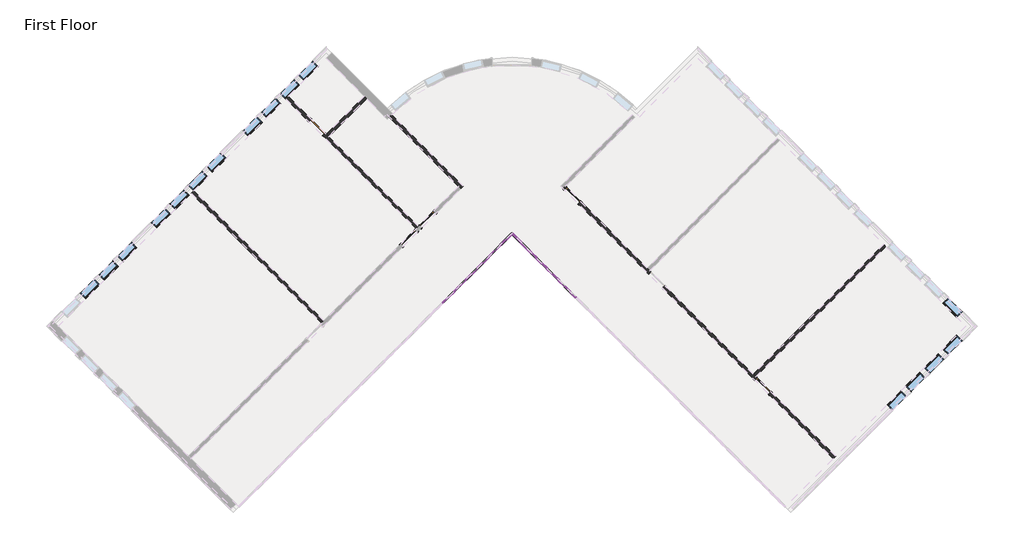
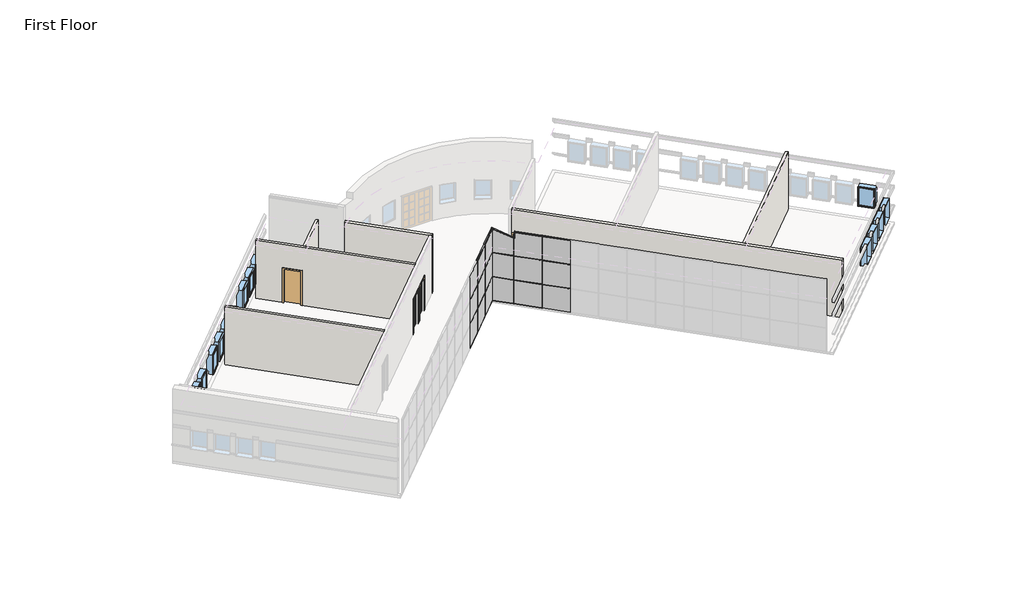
# One storey, part 3 of 7: 40 members, 18 plates, 16 windows, 6 walls, 5 doors.
"""IFC4 building model written with IfcOpenShell, lengths in millimetres."""

from ifc_helpers import new_model, si_unit, frame, origin, origin_with_axes, place, context, project, spatial, polyline, circle_curve, outline, extrude, faceted_brep, transform, mapped, element, save
from ifc_brep_helpers import plane_surface, cylinder_surface, advanced_brep
from components import door_f9494b7c, door_b81abb0e, door_5f5b55da, member_4c538f64, member_155beb68, member_9952366a, member_42be4715, member_2a473b70, member_6121af53, member_501cf4ca, member_3d68c01a, member_c3f37f0b, member_b87a50da, member_e1440e88, member_6675e4ca, member_521366c7, member_0bac5ac1, member_dc9ac586, member_4ed907bf, system_panel_glazed_ca335f2d, system_panel_glazed_da345f4e, system_panel_glazed_1c4746fc, system_panel_glazed_f1e4c5b0, system_panel_glazed_6b3f3dd8, system_panel_glazed_4e4f70a1, system_panel_solid_93f43095, system_panel_solid_cb9a7247, system_panel_solid_2f1037e2, system_panel_solid_79337ef0, system_panel_solid_a0329afc, window_15c49d37, window_0e2fc6ce

model = new_model("IFC4")

# Units and contexts
model_context = context("Model", 3, world=origin())
ifc_project = project(units=[si_unit("LENGTHUNIT", "METRE", prefix="MILLI")], contexts=[model_context])

# Site, building, storey
site = spatial("IfcSite", under=ifc_project)
building = spatial("IfcBuilding", under=site)
storey = spatial("IfcBuildingStorey", under=building, Name="First Floor", Elevation=0.0)

# Doors
placement = place(None, origin())
door_shape = door_f9494b7c(model_context)
element("IfcDoor", 1, ObjectType="Single-Flush : 36\" x 84\"", at=placement, inside=storey, context=model_context, shape_type="MappedRepresentation", body=[
    mapped(door_shape, transform((-11920.1265343, 7875.9588464, 0.0), x_axis=(0.7071067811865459, -0.7071067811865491, 0.0), y_axis=(0.7071067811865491, 0.7071067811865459, 0.0), z_axis=(0.0, 0.0, 1.0))),
])
door_2_shape = door_b81abb0e(model_context)
element("IfcDoor", 2, ObjectType="Single-Glass 1 : 36\" x 84\"", at=placement, inside=storey, context=model_context, shape_type="MappedRepresentation", body=[
    mapped(door_2_shape, transform((-7643.2795567, 2737.0072811, 0.0), x_axis=(0.7071067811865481, 0.7071067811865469, 0.0), y_axis=(-0.7071067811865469, 0.7071067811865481, 0.0), z_axis=(0.0, 0.0, 1.0))),
])
door_3_shape = door_5f5b55da(model_context)
element("IfcDoor", 3, ObjectType="Single-Glass 1 : 36\" x 84\"", at=placement, inside=storey, context=model_context, shape_type="MappedRepresentation", body=[
    mapped(door_3_shape, transform((-6781.1749691, 3599.1118687, 0.0), x_axis=(-0.7071067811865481, -0.7071067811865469, 0.0), y_axis=(0.7071067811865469, -0.7071067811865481, 0.0), z_axis=(0.0, 0.0, 1.0))),
])
element("IfcDoor", 4, ObjectType="Single-Glass 1 : 36\" x 84\"", at=placement, inside=storey, context=model_context, shape_type="MappedRepresentation", body=[
    mapped(door_3_shape, transform((-66.4240191, 4710.6541283, 0.0), x_axis=(-0.7071067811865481, 0.7071067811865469, 0.0), y_axis=(-0.7071067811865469, -0.7071067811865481, 0.0), z_axis=(0.0, 0.0, 1.0))),
])
element("IfcDoor", 5, ObjectType="Single-Glass 1 : 36\" x 84\"", at=placement, inside=storey, context=model_context, shape_type="MappedRepresentation", body=[
    mapped(door_3_shape, transform((8770.3835686, -4126.1534594, 0.0), x_axis=(-0.7071067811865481, 0.7071067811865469, 0.0), y_axis=(-0.7071067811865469, -0.7071067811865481, 0.0), z_axis=(0.0, 0.0, 1.0))),
])

# Members
member_shape = member_4c538f64(model_context)
element("IfcMember", 6, ObjectType="Rectangular Mullion : 1.5\" x 2.5\" Rectangular", at=placement, inside=storey, context=model_context, shape_type="MappedRepresentation", body=[
    mapped(member_shape, transform((-2894.9691327, 2925.5926597, 0.0), x_axis=(0.0, 0.0, -1.0), y_axis=(-0.7071067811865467, 0.7071067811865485, 0.0), z_axis=(0.7071067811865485, 0.7071067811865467, 0.0))),
])
member_2_shape = member_155beb68(model_context)
element("IfcMember", 7, ObjectType="Rectangular Mullion : 1.5\" x 2.5\" Rectangular", at=placement, inside=storey, context=model_context, shape_type="MappedRepresentation", body=[
    mapped(member_2_shape, transform((-3945.659099, 1874.9026933, 0.0), x_axis=(-0.7071067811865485, -0.7071067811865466, 0.0), y_axis=(-0.7071067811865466, 0.7071067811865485, 0.0), z_axis=(0.0, 0.0, -1.0))),
])
element("IfcMember", 8, ObjectType="Rectangular Mullion : 1.5\" x 2.5\" Rectangular", at=placement, inside=storey, context=model_context, shape_type="MappedRepresentation", body=[
    mapped(member_2_shape, transform((-5023.2898336, 797.2719587, 0.0), x_axis=(-0.7071067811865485, -0.7071067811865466, 0.0), y_axis=(-0.7071067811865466, 0.7071067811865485, 0.0), z_axis=(0.0, 0.0, -1.0))),
])
element("IfcMember", 9, ObjectType="Rectangular Mullion : 1.5\" x 2.5\" Rectangular", at=placement, inside=storey, context=model_context, shape_type="MappedRepresentation", body=[
    mapped(member_2_shape, transform((-961.9690028, 1046.4740665, 0.0), x_axis=(-0.7071067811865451, 0.70710678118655, 0.0), y_axis=(0.70710678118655, 0.7071067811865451, 0.0), z_axis=(0.0, 0.0, -1.0))),
])
element("IfcMember", 10, ObjectType="Rectangular Mullion : 1.5\" x 2.5\" Rectangular", at=placement, inside=storey, context=model_context, shape_type="MappedRepresentation", body=[
    mapped(member_2_shape, transform((-2039.5997374, 2124.1048011, 0.0), x_axis=(-0.7071067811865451, 0.70710678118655, 0.0), y_axis=(0.70710678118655, 0.7071067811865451, 0.0), z_axis=(0.0, 0.0, -1.0))),
])
member_3_shape = member_9952366a(model_context)
element("IfcMember", 11, ObjectType="Rectangular Mullion : 1.5\" x 2.5\" Rectangular", at=placement, inside=storey, context=model_context, shape_type="MappedRepresentation", body=[
    mapped(member_3_shape, transform((-3932.1887149, 1888.3730775, 1524.0), x_axis=(0.0, 0.0, 1.0), y_axis=(-0.7071067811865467, 0.7071067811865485, 0.0), z_axis=(-0.7071067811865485, -0.7071067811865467, 0.0))),
])
element("IfcMember", 12, ObjectType="Rectangular Mullion : 1.5\" x 2.5\" Rectangular", at=placement, inside=storey, context=model_context, shape_type="MappedRepresentation", body=[
    mapped(member_3_shape, transform((-3932.1887149, 1888.3730775, 3048.0), x_axis=(0.0, 0.0, 1.0), y_axis=(-0.7071067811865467, 0.7071067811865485, 0.0), z_axis=(-0.7071067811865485, -0.7071067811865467, 0.0))),
])
member_4_shape = member_42be4715(model_context)
element("IfcMember", 13, ObjectType="Rectangular Mullion : 1.5\" x 2.5\" Rectangular", at=placement, inside=storey, context=model_context, shape_type="MappedRepresentation", body=[
    mapped(member_4_shape, transform((-5009.8194494, 810.7423429, 1524.0), x_axis=(0.0, 0.0, 1.0), y_axis=(-0.7071067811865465, 0.7071067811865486, 0.0), z_axis=(-0.7071067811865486, -0.7071067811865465, 0.0))),
])
element("IfcMember", 14, ObjectType="Rectangular Mullion : 1.5\" x 2.5\" Rectangular", at=placement, inside=storey, context=model_context, shape_type="MappedRepresentation", body=[
    mapped(member_4_shape, transform((-5009.8194494, 810.7423429, 3048.0), x_axis=(0.0, 0.0, 1.0), y_axis=(-0.7071067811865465, 0.7071067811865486, 0.0), z_axis=(-0.7071067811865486, -0.7071067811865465, 0.0))),
])
element("IfcMember", 15, ObjectType="Rectangular Mullion : 1.5\" x 2.5\" Rectangular", at=placement, inside=storey, context=model_context, shape_type="MappedRepresentation", body=[
    mapped(member_4_shape, transform((-948.4986186, 1033.0036824, 1524.0), x_axis=(0.0, 0.0, 1.0), y_axis=(0.7071067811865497, 0.7071067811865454, 0.0), z_axis=(-0.7071067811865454, 0.7071067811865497, 0.0))),
])
element("IfcMember", 16, ObjectType="Rectangular Mullion : 1.5\" x 2.5\" Rectangular", at=placement, inside=storey, context=model_context, shape_type="MappedRepresentation", body=[
    mapped(member_4_shape, transform((-2026.1293532, 2110.6344169, 1524.0), x_axis=(0.0, 0.0, 1.0), y_axis=(0.7071067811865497, 0.7071067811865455, 0.0), z_axis=(-0.7071067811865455, 0.7071067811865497, 0.0))),
])
element("IfcMember", 17, ObjectType="Rectangular Mullion : 1.5\" x 2.5\" Rectangular", at=placement, inside=storey, context=model_context, shape_type="MappedRepresentation", body=[
    mapped(member_4_shape, transform((-948.4986186, 1033.0036824, 3048.0), x_axis=(0.0, 0.0, 1.0), y_axis=(0.7071067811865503, 0.7071067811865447, 0.0), z_axis=(-0.7071067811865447, 0.7071067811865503, 0.0))),
])
element("IfcMember", 18, ObjectType="Rectangular Mullion : 1.5\" x 2.5\" Rectangular", at=placement, inside=storey, context=model_context, shape_type="MappedRepresentation", body=[
    mapped(member_4_shape, transform((-2026.1293532, 2110.6344169, 3048.0), x_axis=(0.0, 0.0, 1.0), y_axis=(0.707106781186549, 0.7071067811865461, 0.0), z_axis=(-0.7071067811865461, 0.707106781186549, 0.0))),
])
member_5_shape = member_2a473b70(model_context)
element("IfcMember", 19, ObjectType="Rectangular Mullion : 1.5\" x 2.5\" Rectangular", at=placement, inside=storey, context=model_context, shape_type="MappedRepresentation", body=[
    mapped(member_5_shape, transform((-2841.0875959, 2925.5926597, 1524.0), x_axis=(0.0, 0.0, 1.0), y_axis=(0.7071067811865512, 0.7071067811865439, 0.0), z_axis=(-0.7071067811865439, 0.7071067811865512, 0.0))),
])
element("IfcMember", 20, ObjectType="Rectangular Mullion : 1.5\" x 2.5\" Rectangular", at=placement, inside=storey, context=model_context, shape_type="MappedRepresentation", body=[
    mapped(member_5_shape, transform((-2841.0875959, 2925.5926597, 3048.0), x_axis=(0.0, 0.0, 1.0), y_axis=(0.7071067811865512, 0.7071067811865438, 0.0), z_axis=(-0.7071067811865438, 0.7071067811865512, 0.0))),
])
member_6_shape = member_6121af53(model_context)
element("IfcMember", 21, ObjectType="Rectangular Mullion : 1.5\" x 2.5\" Rectangular", at=placement, inside=storey, context=model_context, shape_type="MappedRepresentation", body=[
    mapped(member_6_shape, transform((-3959.1294832, 1861.4323091, 0.0), x_axis=(0.0, 0.0, -1.0), y_axis=(-0.7071067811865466, 0.7071067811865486, 0.0), z_axis=(0.7071067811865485, 0.7071067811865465, 0.0))),
])
element("IfcMember", 22, ObjectType="Rectangular Mullion : 1.5\" x 2.5\" Rectangular", at=placement, inside=storey, context=model_context, shape_type="MappedRepresentation", body=[
    mapped(member_6_shape, transform((-5036.7602178, 783.8015746, 0.0), x_axis=(0.0, 0.0, -1.0), y_axis=(-0.7071067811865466, 0.7071067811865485, 0.0), z_axis=(0.7071067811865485, 0.7071067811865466, 0.0))),
])
element("IfcMember", 23, ObjectType="Rectangular Mullion : 1.5\" x 2.5\" Rectangular", at=placement, inside=storey, context=model_context, shape_type="MappedRepresentation", body=[
    mapped(member_6_shape, transform((-975.439387, 1059.9444507, 0.0), x_axis=(0.0, 0.0, -1.0), y_axis=(0.707106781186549, 0.7071067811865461, 0.0), z_axis=(0.7071067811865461, -0.707106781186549, 0.0))),
])
member_7_shape = member_501cf4ca(model_context)
element("IfcMember", 24, ObjectType="Rectangular Mullion : 1.5\" x 2.5\" Rectangular", at=placement, inside=storey, context=model_context, shape_type="MappedRepresentation", body=[
    mapped(member_7_shape, transform((-2053.0701215, 2137.5751852, 0.0), x_axis=(0.0, 0.0, -1.0), y_axis=(0.7071067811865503, 0.7071067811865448, 0.0), z_axis=(0.7071067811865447, -0.7071067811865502, 0.0))),
])
element("IfcMember", 25, ObjectType="Rectangular Mullion : 1.5\" x 2.5\" Rectangular", at=placement, inside=storey, context=model_context, shape_type="MappedRepresentation", body=[
    mapped(member_shape, transform((-3932.1887149, 1888.3730775, 4567.7666667), x_axis=(0.0, 0.0, 1.0), y_axis=(-0.7071067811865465, 0.7071067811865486, 0.0), z_axis=(-0.7071067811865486, -0.7071067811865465, 0.0))),
])
element("IfcMember", 26, ObjectType="Rectangular Mullion : 1.5\" x 2.5\" Rectangular", at=placement, inside=storey, context=model_context, shape_type="MappedRepresentation", body=[
    mapped(member_6_shape, transform((-5009.8194494, 810.7423429, 4567.7666667), x_axis=(0.0, 0.0, 1.0), y_axis=(-0.7071067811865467, 0.7071067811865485, 0.0), z_axis=(-0.7071067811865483, -0.7071067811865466, 0.0))),
])
element("IfcMember", 27, ObjectType="Rectangular Mullion : 1.5\" x 2.5\" Rectangular", at=placement, inside=storey, context=model_context, shape_type="MappedRepresentation", body=[
    mapped(member_6_shape, transform((-948.4986186, 1033.0036824, 4572.0), x_axis=(0.0, 0.0, 1.0), y_axis=(0.7071067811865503, 0.7071067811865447, 0.0), z_axis=(-0.7071067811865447, 0.7071067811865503, 0.0))),
])
element("IfcMember", 28, ObjectType="Rectangular Mullion : 1.5\" x 2.5\" Rectangular", at=placement, inside=storey, context=model_context, shape_type="MappedRepresentation", body=[
    mapped(member_2_shape, transform((-3945.659099, 1874.9026933, 1524.0), x_axis=(-0.7071067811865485, -0.7071067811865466, 0.0), y_axis=(-0.7071067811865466, 0.7071067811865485, 0.0), z_axis=(0.0, 0.0, -1.0))),
])
element("IfcMember", 29, ObjectType="Rectangular Mullion : 1.5\" x 2.5\" Rectangular", at=placement, inside=storey, context=model_context, shape_type="MappedRepresentation", body=[
    mapped(member_2_shape, transform((-5023.2898336, 797.2719587, 1524.0), x_axis=(-0.7071067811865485, -0.7071067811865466, 0.0), y_axis=(-0.7071067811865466, 0.7071067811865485, 0.0), z_axis=(0.0, 0.0, -1.0))),
])
element("IfcMember", 30, ObjectType="Rectangular Mullion : 1.5\" x 2.5\" Rectangular", at=placement, inside=storey, context=model_context, shape_type="MappedRepresentation", body=[
    mapped(member_2_shape, transform((-961.9690028, 1046.4740665, 1524.0), x_axis=(-0.7071067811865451, 0.70710678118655, 0.0), y_axis=(0.70710678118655, 0.7071067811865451, 0.0), z_axis=(0.0, 0.0, -1.0))),
])
element("IfcMember", 31, ObjectType="Rectangular Mullion : 1.5\" x 2.5\" Rectangular", at=placement, inside=storey, context=model_context, shape_type="MappedRepresentation", body=[
    mapped(member_2_shape, transform((-2039.5997374, 2124.1048011, 1524.0), x_axis=(-0.7071067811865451, 0.70710678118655, 0.0), y_axis=(0.70710678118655, 0.7071067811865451, 0.0), z_axis=(0.0, 0.0, -1.0))),
])
member_8_shape = member_3d68c01a(model_context)
element("IfcMember", 32, ObjectType="Rectangular Mullion : 1.5\" x 2.5\" Rectangular", at=placement, inside=storey, context=model_context, shape_type="MappedRepresentation", body=[
    mapped(member_8_shape, transform((-3945.659099, 1874.9026933, 3048.0), x_axis=(-0.7071067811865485, -0.7071067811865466, 0.0), y_axis=(-0.7071067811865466, 0.7071067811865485, 0.0), z_axis=(0.0, 0.0, -1.0))),
])
element("IfcMember", 33, ObjectType="Rectangular Mullion : 1.5\" x 2.5\" Rectangular", at=placement, inside=storey, context=model_context, shape_type="MappedRepresentation", body=[
    mapped(member_8_shape, transform((-5023.2898336, 797.2719587, 3048.0), x_axis=(-0.7071067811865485, -0.7071067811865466, 0.0), y_axis=(-0.7071067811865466, 0.7071067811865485, 0.0), z_axis=(0.0, 0.0, -1.0))),
])
member_9_shape = member_c3f37f0b(model_context)
element("IfcMember", 34, ObjectType="Rectangular Mullion : 1.5\" x 2.5\" Rectangular", at=placement, inside=storey, context=model_context, shape_type="MappedRepresentation", body=[
    mapped(member_9_shape, transform((-2868.0283643, 2952.533428, 4567.7666667), x_axis=(0.7071067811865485, 0.7071067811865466, 0.0), y_axis=(-0.7071067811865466, 0.7071067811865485, 0.0), z_axis=(0.0, 0.0, 1.0))),
])
member_10_shape = member_b87a50da(model_context)
element("IfcMember", 35, ObjectType="Rectangular Mullion : 1.5\" x 2.5\" Rectangular", at=placement, inside=storey, context=model_context, shape_type="MappedRepresentation", body=[
    mapped(member_10_shape, transform((-2868.0283643, 2952.533428, 0.0), x_axis=(-0.7071067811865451, 0.70710678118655, 0.0), y_axis=(0.70710678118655, 0.7071067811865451, 0.0), z_axis=(0.0, 0.0, -1.0))),
])
element("IfcMember", 36, ObjectType="Rectangular Mullion : 1.5\" x 2.5\" Rectangular", at=placement, inside=storey, context=model_context, shape_type="MappedRepresentation", body=[
    mapped(member_10_shape, transform((-2868.0283643, 2952.533428, 1524.0), x_axis=(-0.7071067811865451, 0.70710678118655, 0.0), y_axis=(0.70710678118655, 0.7071067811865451, 0.0), z_axis=(0.0, 0.0, -1.0))),
])
element("IfcMember", 37, ObjectType="Rectangular Mullion : 1.5\" x 2.5\" Rectangular", at=placement, inside=storey, context=model_context, shape_type="MappedRepresentation", body=[
    mapped(member_10_shape, transform((-2868.0283643, 2952.533428, 1524.0), x_axis=(0.7071067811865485, 0.7071067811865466, 0.0), y_axis=(-0.7071067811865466, 0.7071067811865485, 0.0), z_axis=(0.0, 0.0, 1.0))),
])
element("IfcMember", 38, ObjectType="Rectangular Mullion : 1.5\" x 2.5\" Rectangular", at=placement, inside=storey, context=model_context, shape_type="MappedRepresentation", body=[
    mapped(member_10_shape, transform((-2868.0283643, 2952.533428, 3048.0), x_axis=(0.7071067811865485, 0.7071067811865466, 0.0), y_axis=(-0.7071067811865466, 0.7071067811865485, 0.0), z_axis=(0.0, 0.0, 1.0))),
])
member_11_shape = member_e1440e88(model_context)
element("IfcMember", 39, ObjectType="Rectangular Mullion : 1.5\" x 2.5\" Rectangular", at=placement, inside=storey, context=model_context, shape_type="MappedRepresentation", body=[
    mapped(member_11_shape, transform((-1978.9830083, 2063.488072, 4572.0), x_axis=(0.0, 0.0, 1.0), y_axis=(0.7071067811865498, 0.7071067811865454, 0.0), z_axis=(-0.7071067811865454, 0.7071067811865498, 0.0))),
])
member_12_shape = member_6675e4ca(model_context)
element("IfcMember", 40, ObjectType="Rectangular Mullion : 1.5\" x 2.5\" Rectangular", at=placement, inside=storey, context=model_context, shape_type="MappedRepresentation", body=[
    mapped(member_12_shape, transform((-2005.9237767, 2090.4288404, 4165.6), x_axis=(-0.7071067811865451, 0.70710678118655, 0.0), y_axis=(0.70710678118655, 0.7071067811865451, 0.0), z_axis=(0.0, 0.0, -1.0))),
])
member_13_shape = member_521366c7(model_context)
element("IfcMember", 41, ObjectType="Rectangular Mullion : 1.5\" x 2.5\" Rectangular", at=placement, inside=storey, context=model_context, shape_type="MappedRepresentation", body=[
    mapped(member_13_shape, transform((-2868.0283643, 2952.533428, 4572.0), x_axis=(0.22360679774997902, -0.22360679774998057, 0.9486832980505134), y_axis=(0.7071067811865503, 0.7071067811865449, 0.0), z_axis=(-0.6708203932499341, 0.6708203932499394, 0.31622776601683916))),
])
member_14_shape = member_0bac5ac1(model_context)
element("IfcMember", 42, ObjectType="Rectangular Mullion : 1.5\" x 2.5\" Rectangular", at=placement, inside=storey, context=model_context, shape_type="MappedRepresentation", body=[
    mapped(member_14_shape, transform((-2039.5997374, 2124.1048011, 4181.4750001), x_axis=(0.22360679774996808, -0.22360679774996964, 0.9486832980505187), y_axis=(0.7071067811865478, 0.7071067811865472, 0.0), z_axis=(-0.6708203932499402, 0.6708203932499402, 0.3162277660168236))),
])
element("IfcMember", 43, ObjectType="Rectangular Mullion : 1.5\" x 2.5\" Rectangular", at=placement, inside=storey, context=model_context, shape_type="MappedRepresentation", body=[
    mapped(member_2_shape, transform((-961.9690028, 1046.4740665, 3048.0), x_axis=(-0.7071067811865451, 0.70710678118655, 0.0), y_axis=(0.70710678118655, 0.7071067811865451, 0.0), z_axis=(0.0, 0.0, -1.0))),
])
member_15_shape = member_dc9ac586(model_context)
element("IfcMember", 44, ObjectType="Rectangular Mullion : 1.5\" x 2.5\" Rectangular", at=placement, inside=storey, context=model_context, shape_type="MappedRepresentation", body=[
    mapped(member_15_shape, transform((-2039.5997374, 2124.1048011, 3048.0), x_axis=(-0.7071067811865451, 0.70710678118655, 0.0), y_axis=(0.70710678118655, 0.7071067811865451, 0.0), z_axis=(0.0, 0.0, -1.0))),
])
member_16_shape = member_4ed907bf(model_context)
element("IfcMember", 45, ObjectType="Rectangular Mullion : 1.5\" x 2.5\" Rectangular", at=placement, inside=storey, context=model_context, shape_type="MappedRepresentation", body=[
    mapped(member_16_shape, transform((-2868.0283643, 2952.533428, 3048.0), x_axis=(-0.7071067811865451, 0.70710678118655, 0.0), y_axis=(0.70710678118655, 0.7071067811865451, 0.0), z_axis=(0.0, 0.0, -1.0))),
])

# Plates
system_panel_glazed_shape = system_panel_glazed_ca335f2d(model_context)
element("IfcPlate", 46, ObjectType="System Panel : Glazed", at=placement, inside=storey, context=model_context, shape_type="MappedRepresentation", body=[
    mapped(system_panel_glazed_shape, transform((-3413.5789238, 2406.9828686, 38.1), x_axis=(-0.7071067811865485, -0.7071067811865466, 0.0), y_axis=(0.7071067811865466, -0.7071067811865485, 0.0), z_axis=(0.0, 0.0, 1.0))),
])
system_panel_glazed_2_shape = system_panel_glazed_da345f4e(model_context)
element("IfcPlate", 47, ObjectType="System Panel : Glazed", at=placement, inside=storey, context=model_context, shape_type="MappedRepresentation", body=[
    mapped(system_panel_glazed_2_shape, transform((-423.1536356, 507.6586993, 38.1), x_axis=(-0.7071067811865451, 0.70710678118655, 0.0), y_axis=(-0.70710678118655, -0.7071067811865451, 0.0), z_axis=(0.0, 0.0, 1.0))),
])
element("IfcPlate", 48, ObjectType="System Panel : Glazed", at=placement, inside=storey, context=model_context, shape_type="MappedRepresentation", body=[
    mapped(system_panel_glazed_2_shape, transform((-4484.4744663, 1336.087326, 38.1), x_axis=(-0.7071067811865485, -0.7071067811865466, 0.0), y_axis=(0.7071067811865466, -0.7071067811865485, 0.0), z_axis=(0.0, 0.0, 1.0))),
])
element("IfcPlate", 49, ObjectType="System Panel : Glazed", at=placement, inside=storey, context=model_context, shape_type="MappedRepresentation", body=[
    mapped(system_panel_glazed_2_shape, transform((-5562.1052008, 258.4565915, 38.1), x_axis=(-0.7071067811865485, -0.7071067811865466, 0.0), y_axis=(0.7071067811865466, -0.7071067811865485, 0.0), z_axis=(0.0, 0.0, 1.0))),
])
element("IfcPlate", 50, ObjectType="System Panel : Glazed", at=placement, inside=storey, context=model_context, shape_type="MappedRepresentation", body=[
    mapped(system_panel_glazed_2_shape, transform((-1500.7843701, 1585.2894338, 38.1), x_axis=(-0.7071067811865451, 0.70710678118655, 0.0), y_axis=(-0.70710678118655, -0.7071067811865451, 0.0), z_axis=(0.0, 0.0, 1.0))),
])
system_panel_glazed_3_shape = system_panel_glazed_1c4746fc(model_context)
element("IfcPlate", 51, ObjectType="System Panel : Glazed", at=placement, inside=storey, context=model_context, shape_type="MappedRepresentation", body=[
    mapped(system_panel_glazed_3_shape, transform((-3413.5789238, 2406.9828686, 1543.05), x_axis=(-0.7071067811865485, -0.7071067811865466, 0.0), y_axis=(0.7071067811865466, -0.7071067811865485, 0.0), z_axis=(0.0, 0.0, 1.0))),
])
system_panel_glazed_4_shape = system_panel_glazed_f1e4c5b0(model_context)
element("IfcPlate", 52, ObjectType="System Panel : Glazed", at=placement, inside=storey, context=model_context, shape_type="MappedRepresentation", body=[
    mapped(system_panel_glazed_4_shape, transform((-423.1536356, 507.6586993, 1543.05), x_axis=(-0.7071067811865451, 0.70710678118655, 0.0), y_axis=(-0.70710678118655, -0.7071067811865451, 0.0), z_axis=(0.0, 0.0, 1.0))),
])
element("IfcPlate", 53, ObjectType="System Panel : Glazed", at=placement, inside=storey, context=model_context, shape_type="MappedRepresentation", body=[
    mapped(system_panel_glazed_4_shape, transform((-4484.4744663, 1336.087326, 1543.05), x_axis=(-0.7071067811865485, -0.7071067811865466, 0.0), y_axis=(0.7071067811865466, -0.7071067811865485, 0.0), z_axis=(0.0, 0.0, 1.0))),
])
element("IfcPlate", 54, ObjectType="System Panel : Glazed", at=placement, inside=storey, context=model_context, shape_type="MappedRepresentation", body=[
    mapped(system_panel_glazed_4_shape, transform((-5562.1052008, 258.4565915, 1543.05), x_axis=(-0.7071067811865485, -0.7071067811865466, 0.0), y_axis=(0.7071067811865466, -0.7071067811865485, 0.0), z_axis=(0.0, 0.0, 1.0))),
])
element("IfcPlate", 55, ObjectType="System Panel : Glazed", at=placement, inside=storey, context=model_context, shape_type="MappedRepresentation", body=[
    mapped(system_panel_glazed_4_shape, transform((-1500.7843701, 1585.2894338, 1543.05), x_axis=(-0.7071067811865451, 0.70710678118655, 0.0), y_axis=(-0.70710678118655, -0.7071067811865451, 0.0), z_axis=(0.0, 0.0, 1.0))),
])
system_panel_glazed_5_shape = system_panel_glazed_6b3f3dd8(model_context)
element("IfcPlate", 56, ObjectType="System Panel : Glazed", at=placement, inside=storey, context=model_context, shape_type="MappedRepresentation", body=[
    mapped(system_panel_glazed_5_shape, transform((-2447.0788587, 2531.5839225, 38.1), x_axis=(-0.7071067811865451, 0.70710678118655, 0.0), y_axis=(-0.70710678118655, -0.7071067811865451, 0.0), z_axis=(0.0, 0.0, 1.0))),
])
system_panel_glazed_6_shape = system_panel_glazed_4e4f70a1(model_context)
element("IfcPlate", 57, ObjectType="System Panel : Glazed", at=placement, inside=storey, context=model_context, shape_type="MappedRepresentation", body=[
    mapped(system_panel_glazed_6_shape, transform((-2447.0788587, 2531.5839225, 1543.05), x_axis=(-0.7071067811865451, 0.70710678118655, 0.0), y_axis=(-0.70710678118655, -0.7071067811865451, 0.0), z_axis=(0.0, 0.0, 1.0))),
])
system_panel_solid_shape = system_panel_solid_93f43095(model_context)
element("IfcPlate", 58, ObjectType="System Panel : Solid", at=placement, inside=storey, context=model_context, shape_type="MappedRepresentation", body=[
    mapped(system_panel_solid_shape, transform((-3413.5789238, 2406.9828686, 3067.05), x_axis=(-0.7071067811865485, -0.7071067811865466, 0.0), y_axis=(0.7071067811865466, -0.7071067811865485, 0.0), z_axis=(0.0, 0.0, 1.0))),
])
system_panel_solid_2_shape = system_panel_solid_cb9a7247(model_context)
element("IfcPlate", 59, ObjectType="System Panel : Solid", at=placement, inside=storey, context=model_context, shape_type="MappedRepresentation", body=[
    mapped(system_panel_solid_2_shape, transform((-4484.4744663, 1336.087326, 3067.05), x_axis=(-0.7071067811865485, -0.7071067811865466, 0.0), y_axis=(0.7071067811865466, -0.7071067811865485, 0.0), z_axis=(0.0, 0.0, 1.0))),
])
element("IfcPlate", 60, ObjectType="System Panel : Solid", at=placement, inside=storey, context=model_context, shape_type="MappedRepresentation", body=[
    mapped(system_panel_solid_2_shape, transform((-5562.1052008, 258.4565915, 3067.05), x_axis=(-0.7071067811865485, -0.7071067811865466, 0.0), y_axis=(0.7071067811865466, -0.7071067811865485, 0.0), z_axis=(0.0, 0.0, 1.0))),
])
system_panel_solid_3_shape = system_panel_solid_2f1037e2(model_context)
element("IfcPlate", 61, ObjectType="System Panel : Solid", at=placement, inside=storey, context=model_context, shape_type="MappedRepresentation", body=[
    mapped(system_panel_solid_3_shape, transform((-423.1536356, 507.6586993, 3067.05), x_axis=(-0.7071067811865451, 0.70710678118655, 0.0), y_axis=(-0.70710678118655, -0.7071067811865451, 0.0), z_axis=(0.0, 0.0, 1.0))),
])
system_panel_solid_4_shape = system_panel_solid_79337ef0(model_context)
element("IfcPlate", 62, ObjectType="System Panel : Solid", at=placement, inside=storey, context=model_context, shape_type="MappedRepresentation", body=[
    mapped(system_panel_solid_4_shape, transform((-1500.7843701, 1585.2894338, 3067.05), x_axis=(-0.7071067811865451, 0.70710678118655, 0.0), y_axis=(-0.70710678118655, -0.7071067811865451, 0.0), z_axis=(0.0, 0.0, 1.0))),
])
system_panel_solid_5_shape = system_panel_solid_a0329afc(model_context)
element("IfcPlate", 63, ObjectType="System Panel : Solid", at=placement, inside=storey, context=model_context, shape_type="MappedRepresentation", body=[
    mapped(system_panel_solid_5_shape, transform((-2447.0788587, 2531.5839225, 3067.05), x_axis=(-0.7071067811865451, 0.70710678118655, 0.0), y_axis=(-0.70710678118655, -0.7071067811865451, 0.0), z_axis=(0.0, 0.0, 1.0))),
])

# Walls
element("IfcWall", 64, ObjectType="Interior - 6 1/8\" Partition (2-hr)", at=placement, inside=storey, context=model_context, shape_type="Brep", body=[
    faceted_brep([(-7212.2272629, 3278.0677124, 0.0), (-11379.066103, 7444.9065526, 0.0), (-11489.0742405, 7554.9146901, 0.0), (-11541.8332452, 7607.6736948, 0.0), (-11541.8332452, 7607.6736948, 2133.6), (-12188.411686, 8254.2521355, 2133.6), (-12188.411686, 8254.2521355, 0.0), (-13249.2044403, 9315.0448898, 0.0), (-13249.2044403, 9315.0448898, 3657.6), (-11489.0742405, 7554.9146901, 3657.6), (-11379.066103, 7444.9065526, 3657.6), (-7212.2272629, 3278.0677124, 3657.6), (-11651.8413827, 7497.6655573, 2133.6), (-11651.8413827, 7497.6655573, 0.0), (-7322.2354004, 3168.0595749, 0.0), (-7322.2354004, 3168.0595749, 3657.6), (-13359.2125777, 9205.0367523, 3657.6), (-13359.2125777, 9205.0367523, 0.0), (-12298.4198234, 8144.243998, 0.0), (-12298.4198234, 8144.243998, 2133.6)], [[[0, 1, 2, 3, 4, 5, 6, 7, 8, 9, 10, 11]], [[12, 13, 14, 15, 16, 17, 18, 19]], [[14, 13, 3, 2, 1, 0]], [[18, 17, 7, 6]], [[11, 10, 9, 8, 16, 15]], [[8, 7, 17, 16]], [[0, 11, 15, 14]], [[4, 3, 13, 12]], [[5, 4, 12, 19]], [[6, 5, 19, 18]]]),
])
element("IfcWall", 65, ObjectType="Interior - 6 1/8\" Partition (2-hr)", at=placement, inside=storey, context=model_context, shape_type="AdvancedBrep", body=[
    advanced_brep(
    [(-5128.5722782, 5141.7064221, 0.0), (-8449.0111375, 8462.1452813, 0.0), (-8449.0111375, 8462.1452813, 3657.6), (-5128.5722782, 5141.7064221, 3657.6), (-5238.5804157, 5031.6982846, 0.0), (-5238.5804157, 5031.6982846, 3657.6), (-5348.5885532, 5141.7064221, 3657.6), (-8557.7157352, 8350.8336041, 3657.6), (-8557.7157352, 8350.8336041, 0.0), (-5348.5885532, 5141.7064221, 0.0)],
    [
        (0, 1),
        (1, 2),
        (2, 3),
        (3, 0),
        (4, 5),
        (5, 6),
        (6, 7),
        (7, 8),
        (8, 9),
        (9, 4),
        (0, 4),
        (8, 1, circle_curve(frame((-2868.0283643, 2903.1420194, 0.0), z_axis=(0.0, 0.0, -1.0), x_axis=(1.0, 0.0, 0.0)), 7877.175)),
        (2, 7, circle_curve(frame((-2868.0283643, 2903.1420194, 3657.6), z_axis=(0.0, 0.0, 1.0), x_axis=(1.0, 0.0, 0.0)), 7877.175)),
        (5, 3),
    ],
    [
        plane_surface(frame((-5183.576347, 5196.7104908, 0.0), z_axis=(0.7071067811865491, 0.7071067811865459, 0.0), x_axis=(-0.7071067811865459, 0.7071067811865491, 0.0))),
        plane_surface(frame((-5293.5844845, 5086.7023533, 0.0), z_axis=(-0.7071067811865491, -0.7071067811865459, 0.0), x_axis=(0.7071067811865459, -0.7071067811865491, 0.0))),
        plane_surface(frame((-5183.576347, 5196.7104908, 0.0), z_axis=(0.0, 0.0, -1.0), x_axis=(-0.707106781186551, -0.7071067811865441, 0.0))),
        plane_surface(frame((-8573.2406241, 8586.374768, 3657.6), z_axis=(0.0, 0.0, 1.0), x_axis=(-0.707106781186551, -0.7071067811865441, 0.0))),
        plane_surface(frame((-17899.854579, -7629.5758786, 0.0), z_axis=(0.7071067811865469, -0.7071067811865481, 0.0), x_axis=(0.7071067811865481, 0.7071067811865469, 0.0))),
        cylinder_surface(frame((-2868.0283643, 2903.1420194, 0.0), z_axis=(0.0, 0.0, -1.0), x_axis=(1.0, 0.0, 0.0)), 7877.175),
    ],
    [
        (0, [[1, 2, 3, 4]]),
        (1, [[5, 6, 7, 8, 9, 10]]),
        (2, [[-1, 11, -10, -9, 12]]),
        (3, [[-3, 13, -7, -6, 14]]),
        (4, [[-4, -14, -5, -11]]),
        (5, [[-2, -12, -8, -13]]),
    ],
),
])
element("IfcWall", 66, ObjectType="Interior - 6 1/8\" Partition (2-hr)", at=placement, inside=storey, context=model_context, shape_type="SweptSolid", body=[
    extrude(outline(polyline([(-11489.0742405, 7554.9146901), (-9728.9440408, 9315.0448898), (-9618.9359033, 9205.0367523), (-11379.066103, 7444.9065526), (-11489.0742405, 7554.9146901)])), origin_with_axes(), (0.0, 0.0, 1.0), 3657.6),
])
element("IfcWall", 67, ObjectType="Interior - 6 1/8\" Partition (2-hr)", at=placement, inside=storey, context=model_context, shape_type="SweptSolid", body=[
    extrude(outline(polyline([(-17633.6967091, 4930.552621), (-11596.7195317, -1106.4245564), (-11706.7276692, -1216.4326939), (-17743.7048466, 4820.5444835), (-17633.6967091, 4930.552621)])), origin_with_axes(), (0.0, 0.0, 1.0), 3657.6),
])
element("IfcWall", 68, ObjectType="Interior - 6 1/8\" Partition (2-hr)", at=placement, inside=storey, context=model_context, shape_type="Brep", body=[
    faceted_brep([(-387.4681754, 5141.7064221, 0.0), (-334.7091707, 5088.9474174, 0.0), (-444.7173082, 4978.9392799, 0.0), (-497.4763129, 5031.6982846, 0.0), (311.86927, 4442.3689766, 0.0), (3415.9058564, 1338.3323903, 0.0), (3525.9139939, 1228.3242528, 0.0), (3578.6729986, 1175.5652481, 0.0), (3468.6648611, 1065.5571106, 0.0), (201.8611325, 4332.3608392, 0.0), (4225.2514393, 528.9868073, 0.0), (8339.3312748, -3585.0930281, 0.0), (8449.3394123, -3695.1011656, 0.0), (8502.098417, -3747.8601703, 0.0), (8392.0902795, -3857.8683078, 0.0), (4115.2433018, 418.9786699, 0.0), (9148.6768577, -4394.438611, 0.0), (12149.2049342, -7394.9666875, 0.0), (12039.1967967, -7504.974825, 0.0), (9038.6687202, -4504.4467485, 0.0), (12149.2049342, -7394.9666875, 3657.6), (8449.3394123, -3695.1011656, 3657.6), (8339.3312748, -3585.0930281, 3657.6), (3525.9139939, 1228.3242528, 3657.6), (3415.9058564, 1338.3323903, 3657.6), (-387.4681754, 5141.7064221, 3657.6), (-497.4763129, 5031.6982846, 3657.6), (12039.1967967, -7504.974825, 3657.6), (8502.098417, -3747.8601703, 2133.6), (4225.2514393, 528.9868073, 2133.6), (3578.6729986, 1175.5652481, 2133.6), (311.86927, 4442.3689766, 2133.6), (-334.7091707, 5088.9474174, 2133.6), (9148.6768577, -4394.438611, 2133.6), (8392.0902795, -3857.8683078, 2133.6), (9038.6687202, -4504.4467485, 2133.6), (-444.7173082, 4978.9392799, 2133.6), (201.8611325, 4332.3608392, 2133.6), (3468.6648611, 1065.5571106, 2133.6), (4115.2433018, 418.9786699, 2133.6)], [[[0, 1, 2, 3]], [[4, 5, 6, 7, 8, 9]], [[10, 11, 12, 13, 14, 15]], [[16, 17, 18, 19]], [[20, 21, 22, 23, 24, 25, 26, 27]], [[28, 13, 12, 11, 10, 29, 30, 7, 6, 5, 4, 31, 32, 1, 0, 25, 24, 23, 22, 21, 20, 17, 16, 33]], [[15, 14, 34, 35, 19, 18, 27, 26, 3, 2, 36, 37, 9, 8, 38, 39]], [[25, 0, 3, 26]], [[17, 20, 27, 18]], [[36, 2, 1, 32]], [[37, 36, 32, 31]], [[9, 37, 31, 4]], [[38, 8, 7, 30]], [[39, 38, 30, 29]], [[15, 39, 29, 10]], [[34, 14, 13, 28]], [[35, 34, 28, 33]], [[19, 35, 33, 16]]]),
])
element("IfcWall", 69, ObjectType="Interior - 6 1/8\" Partition (2-hr)", at=placement, inside=storey, context=model_context, shape_type="SweptSolid", body=[
    extrude(outline(polyline([(8339.3312748, -3585.0930281), (14376.3084522, 2451.8841493), (14486.3165897, 2341.8760118), (8449.3394123, -3695.1011656), (8339.3312748, -3585.0930281)])), origin_with_axes(), (0.0, 0.0, 1.0), 3657.6),
])

# Windows
window_shape = window_15c49d37(model_context)
element("IfcWindow", 70, ObjectType="Fixed : 36\" x 48\"", at=placement, inside=storey, context=model_context, shape_type="MappedRepresentation", body=[
    mapped(window_shape, transform((-22474.1725406, 339.2788968, 0.0), x_axis=(-0.7071067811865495, -0.7071067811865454, 0.0), y_axis=(0.7071067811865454, -0.7071067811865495, 0.0), z_axis=(0.0, 0.0, 1.0))),
])
element("IfcWindow", 71, ObjectType="Fixed : 36\" x 48\"", at=placement, inside=storey, context=model_context, shape_type="MappedRepresentation", body=[
    mapped(window_shape, transform((-21612.067953, 1201.3834844, 0.0), x_axis=(-0.7071067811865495, -0.7071067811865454, 0.0), y_axis=(0.7071067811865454, -0.7071067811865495, 0.0), z_axis=(0.0, 0.0, 1.0))),
])
element("IfcWindow", 72, ObjectType="Fixed : 36\" x 48\"", at=placement, inside=storey, context=model_context, shape_type="MappedRepresentation", body=[
    mapped(window_shape, transform((-20749.9633654, 2063.488072, 0.0), x_axis=(-0.7071067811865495, -0.7071067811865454, 0.0), y_axis=(0.7071067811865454, -0.7071067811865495, 0.0), z_axis=(0.0, 0.0, 1.0))),
])
element("IfcWindow", 73, ObjectType="Fixed : 36\" x 48\"", at=placement, inside=storey, context=model_context, shape_type="MappedRepresentation", body=[
    mapped(window_shape, transform((-19187.8702245, 3625.5812129, 0.0), x_axis=(-0.7071067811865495, -0.7071067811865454, 0.0), y_axis=(0.7071067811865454, -0.7071067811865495, 0.0), z_axis=(0.0, 0.0, 1.0))),
])
element("IfcWindow", 74, ObjectType="Fixed : 36\" x 48\"", at=placement, inside=storey, context=model_context, shape_type="MappedRepresentation", body=[
    mapped(window_shape, transform((-18325.7656368, 4487.6858006, 0.0), x_axis=(-0.7071067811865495, -0.7071067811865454, 0.0), y_axis=(0.7071067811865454, -0.7071067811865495, 0.0), z_axis=(0.0, 0.0, 1.0))),
])
element("IfcWindow", 75, ObjectType="Fixed : 36\" x 48\"", at=placement, inside=storey, context=model_context, shape_type="MappedRepresentation", body=[
    mapped(window_shape, transform((-17463.6610492, 5349.7903882, 0.0), x_axis=(-0.7071067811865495, -0.7071067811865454, 0.0), y_axis=(0.7071067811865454, -0.7071067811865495, 0.0), z_axis=(0.0, 0.0, 1.0))),
])
element("IfcWindow", 76, ObjectType="Fixed : 36\" x 48\"", at=placement, inside=storey, context=model_context, shape_type="MappedRepresentation", body=[
    mapped(window_shape, transform((-16601.5564616, 6211.8949758, 0.0), x_axis=(-0.7071067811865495, -0.7071067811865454, 0.0), y_axis=(0.7071067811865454, -0.7071067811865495, 0.0), z_axis=(0.0, 0.0, 1.0))),
])
element("IfcWindow", 77, ObjectType="Fixed : 36\" x 48\"", at=placement, inside=storey, context=model_context, shape_type="MappedRepresentation", body=[
    mapped(window_shape, transform((17600.2203996, -2193.1533294, 0.0), x_axis=(0.7071067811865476, 0.7071067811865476, 0.0), y_axis=(-0.7071067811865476, 0.7071067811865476, 0.0), z_axis=(0.0, 0.0, 1.0))),
])
element("IfcWindow", 78, ObjectType="Fixed : 36\" x 48\"", at=placement, inside=storey, context=model_context, shape_type="MappedRepresentation", body=[
    mapped(window_shape, transform((16738.115812, -3055.257917, 0.0), x_axis=(0.7071067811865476, 0.7071067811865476, 0.0), y_axis=(-0.7071067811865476, 0.7071067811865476, 0.0), z_axis=(0.0, 0.0, 1.0))),
])
element("IfcWindow", 79, ObjectType="Fixed : 36\" x 48\"", at=placement, inside=storey, context=model_context, shape_type="MappedRepresentation", body=[
    mapped(window_shape, transform((15876.0112244, -3917.3625046, 0.0), x_axis=(0.7071067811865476, 0.7071067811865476, 0.0), y_axis=(-0.7071067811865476, 0.7071067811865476, 0.0), z_axis=(0.0, 0.0, 1.0))),
])
element("IfcWindow", 80, ObjectType="Fixed : 36\" x 48\"", at=placement, inside=storey, context=model_context, shape_type="MappedRepresentation", body=[
    mapped(window_shape, transform((15013.9066368, -4779.4670922, 0.0), x_axis=(0.7071067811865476, 0.7071067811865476, 0.0), y_axis=(-0.7071067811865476, 0.7071067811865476, 0.0), z_axis=(0.0, 0.0, 1.0))),
])
window_2_shape = window_0e2fc6ce(model_context)
element("IfcWindow", 81, ObjectType="Fixed : 36\" x 48\"", at=placement, inside=storey, context=model_context, shape_type="MappedRepresentation", body=[
    mapped(window_2_shape, transform((-12290.3265348, 10523.1249026, 0.0), x_axis=(0.7071067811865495, 0.7071067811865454, 0.0), y_axis=(-0.7071067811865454, 0.7071067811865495, 0.0), z_axis=(0.0, 0.0, 1.0))),
])
element("IfcWindow", 82, ObjectType="Fixed : 36\" x 48\"", at=placement, inside=storey, context=model_context, shape_type="MappedRepresentation", body=[
    mapped(window_2_shape, transform((-13152.4311224, 9661.020315, 0.0), x_axis=(0.7071067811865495, 0.7071067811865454, 0.0), y_axis=(-0.7071067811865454, 0.7071067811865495, 0.0), z_axis=(0.0, 0.0, 1.0))),
])
element("IfcWindow", 83, ObjectType="Fixed : 36\" x 48\"", at=placement, inside=storey, context=model_context, shape_type="MappedRepresentation", body=[
    mapped(window_2_shape, transform((-14014.53571, 8798.9157274, 0.0), x_axis=(0.7071067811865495, 0.7071067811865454, 0.0), y_axis=(-0.7071067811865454, 0.7071067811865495, 0.0), z_axis=(0.0, 0.0, 1.0))),
])
element("IfcWindow", 84, ObjectType="Fixed : 36\" x 48\"", at=placement, inside=storey, context=model_context, shape_type="MappedRepresentation", body=[
    mapped(window_2_shape, transform((-14876.6402977, 7936.8111398, 0.0), x_axis=(0.7071067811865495, 0.7071067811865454, 0.0), y_axis=(-0.7071067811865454, 0.7071067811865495, 0.0), z_axis=(0.0, 0.0, 1.0))),
])
element("IfcWindow", 85, ObjectType="Fixed : 36\" x 48\"", at=placement, inside=storey, context=model_context, shape_type="MappedRepresentation", body=[
    mapped(window_2_shape, transform((17600.2203996, -522.8256908, 0.0), x_axis=(0.7071067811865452, -0.7071067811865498, 0.0), y_axis=(0.7071067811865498, 0.7071067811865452, 0.0), z_axis=(0.0, 0.0, 1.0))),
])

save(model, "model.ifc")
